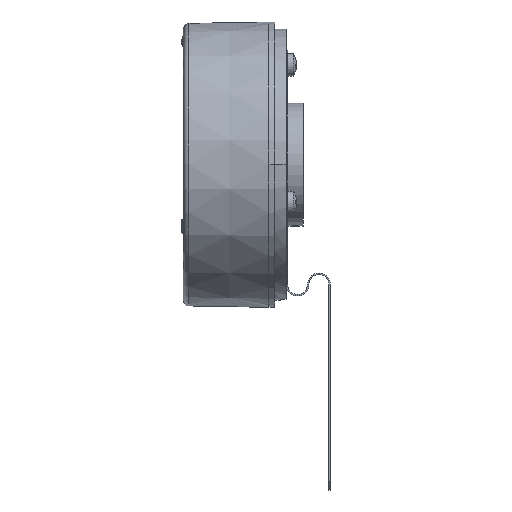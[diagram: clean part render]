
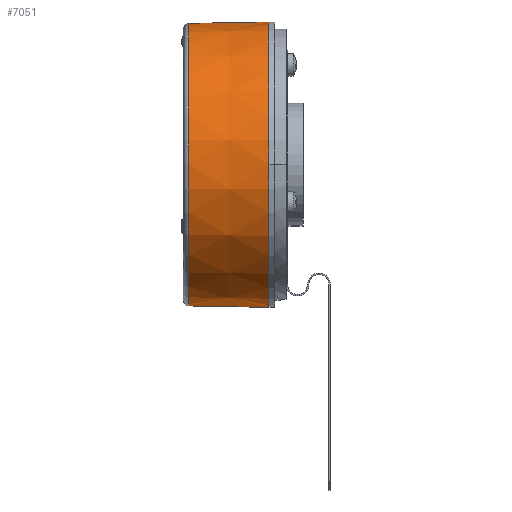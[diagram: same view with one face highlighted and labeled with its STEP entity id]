
A CAD part, top view. The second image highlights one B-rep face of the part: STEP entity #7051.
In plain terms, the highlighted conical face has half-angle 1 degrees and reference radius 50 mm.
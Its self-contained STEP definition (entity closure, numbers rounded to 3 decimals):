
#1472 = EDGE_CURVE ( 'NONE', #12233, #12037, #16764, .T. ) ;
#1550 = CARTESIAN_POINT ( 'NONE',  ( 15.192, -52.677, 0. ) ) ;
#1892 = CARTESIAN_POINT ( 'NONE',  ( 15.192, 46.344, 0. ) ) ;
#6818 = ORIENTED_EDGE ( 'NONE', *, *, #8368, .T. ) ;
#6837 = ORIENTED_EDGE ( 'NONE', *, *, #7231, .F. ) ;
#6861 = EDGE_LOOP ( 'NONE', ( #6837, #6877, #6818, #8352 ) ) ;
#6877 = ORIENTED_EDGE ( 'NONE', *, *, #1472, .T. ) ;
#7051 = ADVANCED_FACE ( 'NONE', ( #16969 ), #16968, .T. ) ;
#7231 = EDGE_CURVE ( 'NONE', #12233, #7266, #17001, .T. ) ;
#7266 = VERTEX_POINT ( 'NONE', #16996 ) ;
#8350 = VERTEX_POINT ( 'NONE', #17135 ) ;
#8352 = ORIENTED_EDGE ( 'NONE', *, *, #8354, .T. ) ;
#8354 = EDGE_CURVE ( 'NONE', #8350, #7266, #17128, .T. ) ;
#8368 = EDGE_CURVE ( 'NONE', #12037, #8350, #17219, .T. ) ;
#12037 = VERTEX_POINT ( 'NONE', #1550 ) ;
#12233 = VERTEX_POINT ( 'NONE', #1892 ) ;
#16759 = DIRECTION ( 'NONE',  ( 0., 1., 0. ) ) ;
#16760 = DIRECTION ( 'NONE',  ( 1., 0., 0. ) ) ;
#16762 = CARTESIAN_POINT ( 'NONE',  ( 15.192, -3.167, 0. ) ) ;
#16763 = AXIS2_PLACEMENT_3D ( 'NONE', #16762, #16760, #16759 ) ;
#16764 = CIRCLE ( 'NONE', #16763, 49.511 ) ;
#16963 = DIRECTION ( 'NONE',  ( 0., -1., 0. ) ) ;
#16964 = DIRECTION ( 'NONE',  ( 1., 0., 0. ) ) ;
#16965 = AXIS2_PLACEMENT_3D ( 'NONE', #16967, #16964, #16963 ) ;
#16967 = CARTESIAN_POINT ( 'NONE',  ( 43.227, -3.167, 0. ) ) ;
#16968 = CONICAL_SURFACE ( 'NONE', #16965, 50., 0.017 ) ;
#16969 = FACE_OUTER_BOUND ( 'NONE', #6861, .T. ) ;
#16996 = CARTESIAN_POINT ( 'NONE',  ( 43.227, 46.833, 0. ) ) ;
#16998 = DIRECTION ( 'NONE',  ( 1., 0.017, 0. ) ) ;
#16999 = VECTOR ( 'NONE', #16998, 1000. ) ;
#17000 = CARTESIAN_POINT ( 'NONE',  ( 43.227, 46.833, 0. ) ) ;
#17001 = LINE ( 'NONE', #17000, #16999 ) ;
#17124 = DIRECTION ( 'NONE',  ( 0., 1., 0. ) ) ;
#17125 = DIRECTION ( 'NONE',  ( -1., 0., 0. ) ) ;
#17127 = AXIS2_PLACEMENT_3D ( 'NONE', #17134, #17125, #17124 ) ;
#17128 = CIRCLE ( 'NONE', #17127, 50. ) ;
#17134 = CARTESIAN_POINT ( 'NONE',  ( 43.227, -3.167, 0. ) ) ;
#17135 = CARTESIAN_POINT ( 'NONE',  ( 43.227, -53.167, 0. ) ) ;
#17216 = DIRECTION ( 'NONE',  ( 1., -0.017, 0. ) ) ;
#17217 = VECTOR ( 'NONE', #17216, 1000. ) ;
#17218 = CARTESIAN_POINT ( 'NONE',  ( 43.227, -53.167, 0. ) ) ;
#17219 = LINE ( 'NONE', #17218, #17217 ) ;
